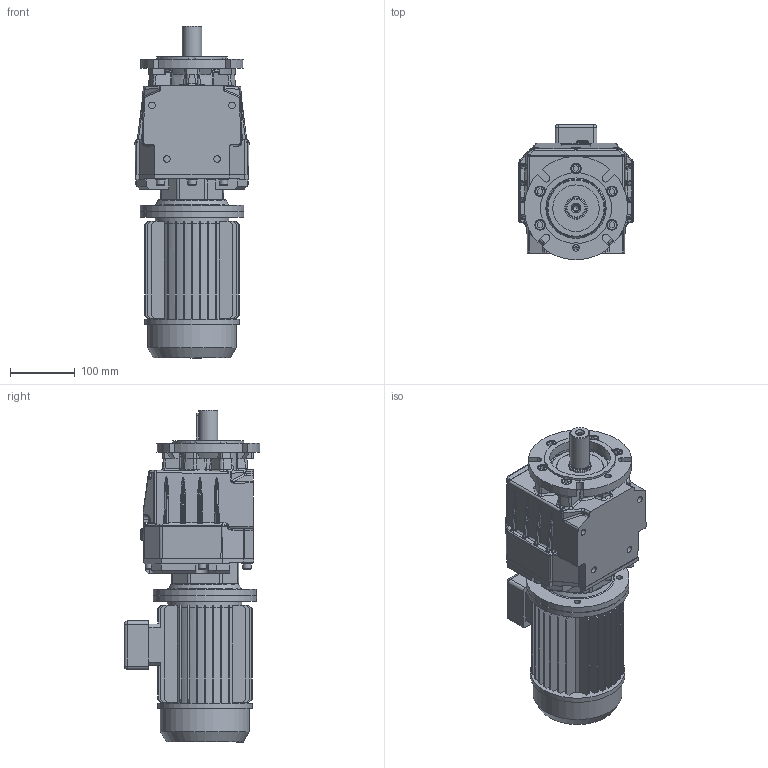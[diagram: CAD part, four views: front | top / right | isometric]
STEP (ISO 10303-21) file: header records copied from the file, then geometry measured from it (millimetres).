
FILE_DESCRIPTION( ( 'Unknown' ), '1' );
FILE_NAME( 'E:/services/configuratordownloads/customers/HYDROMEC/COASSIALI/download/BD76F7CA57C0624928E13DF06FD83CD7/STEP/BD76F7CA57C0624928E13DF06FD83CD7.3d.stp', 'Unknown', ( 'Unknown' ), ( 'Unknown' ), 'PSStep 10.1', 'Unknown', ' ' );
FILE_SCHEMA( ( 'AUTOMOTIVE_DESIGN { 1 0 10303 214 1 1 1 1 }' ) );
Length unit declared in the file: millimetre
Products named in the file (1): C518800
Bounding box: 176.75 x 210.02 x 514.4 mm (x, y, z)
Volume: 7973525.7 mm3; surface area: 577484.9 mm2
Topology: 1 solids, 30 shells, 1605 faces, 4033 edges, 2545 vertices
Faces by surface type: plane 854, cylinder 374, bspline 203, cone 95, torus 47, sphere 20, revolution 8, extrusion 4
Full cylindrical faces by diameter (mm): 4.917 x6, 6 x6, 6.5 x1, 7.262 x6, 8 x1, 8.376 x11, 8.5 x8, 9 x4, 9.5 x8, 10 x7, 10.106 x8, 10.5 x6, 11.3 x1, 11.445 x2, 12.75 x8, 13.5 x1, 15.8 x5, 16.5 x5, 18 x1, 19 x1, 20 x1, 22 x1, 28.6 x1, 30 x1, 35 x1, 45 x2, 68 x1, 72 x1, 75 x1, 93.5 x1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
Entity records: 77859 total; most frequent: CARTESIAN_POINT 28535, DIRECTION 7483, ORIENTED_EDGE 7418, EDGE_CURVE 3709, AXIS2_PLACEMENT_3D 2701, VERTEX_POINT 2443, VECTOR 2073, LINE 2069
